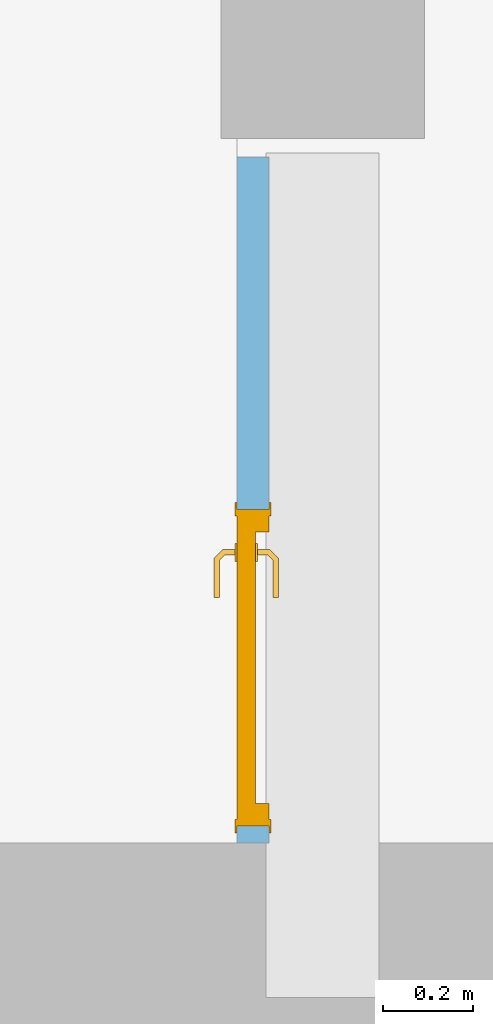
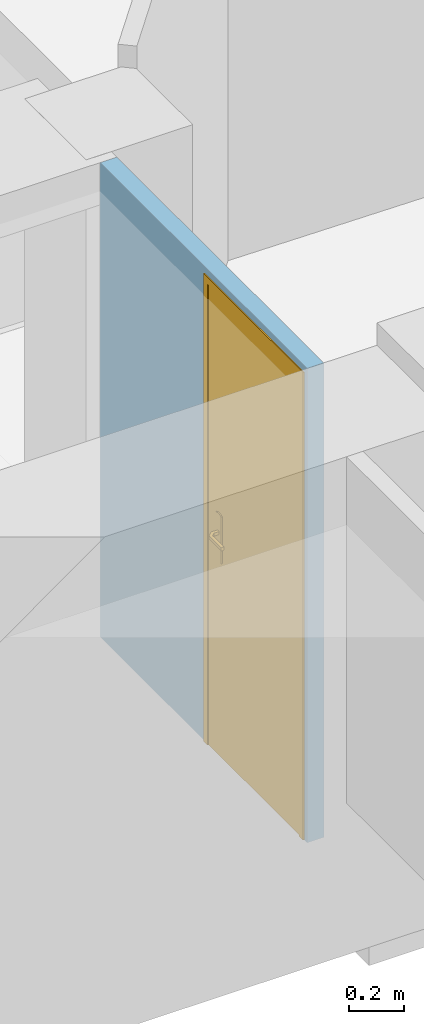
# One storey, part 22 of 32: 1 door, 1 opening, plus 1 element that does not belong to this part.
"""IFC4 building model written with IfcOpenShell, lengths in metres."""

from ifc_helpers import new_model, entity, si_unit, converted_unit, derived_unit, direction, frame, origin, place, context, subcontext, project, spatial, indexed_curve, outline, extrude, polygons, source, transform, mapped, material, material_list, layer, layer_set, constituent, constituent_set, type_object, type_shapes, element, fill, save


model = new_model("IFC4")

# Units and contexts
model_context = context("Model", 3, precision=1e-05, world=origin(), true_north=direction((6.12303176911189e-17, 1.0)))
body_context = subcontext(model_context, "Body", "Model", "MODEL_VIEW")
ifc_project = project(units=[si_unit("LENGTHUNIT", "METRE"), si_unit("AREAUNIT", "SQUARE_METRE"), si_unit("VOLUMEUNIT", "CUBIC_METRE"), converted_unit("PLANEANGLEUNIT", "DEGREE", entity("IfcRatioMeasure", 0.0174532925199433), si_unit("PLANEANGLEUNIT", "RADIAN"), dimensions=[0, 0, 0, 0, 0, 0, 0]), si_unit("MASSUNIT", "GRAM", prefix="KILO"), derived_unit("MASSDENSITYUNIT", [(si_unit("MASSUNIT", "GRAM", prefix="KILO"), 1), (si_unit("LENGTHUNIT", "METRE"), -3)]), derived_unit("MOMENTOFINERTIAUNIT", [(si_unit("LENGTHUNIT", "METRE"), 4)]), si_unit("TIMEUNIT", "SECOND"), si_unit("FREQUENCYUNIT", "HERTZ"), si_unit("THERMODYNAMICTEMPERATUREUNIT", "DEGREE_CELSIUS"), derived_unit("THERMALTRANSMITTANCEUNIT", [(si_unit("MASSUNIT", "GRAM", prefix="KILO"), 1), (si_unit("THERMODYNAMICTEMPERATUREUNIT", "KELVIN"), -1), (si_unit("TIMEUNIT", "SECOND"), -3)]), derived_unit("VOLUMETRICFLOWRATEUNIT", [(si_unit("LENGTHUNIT", "METRE"), 3), (si_unit("TIMEUNIT", "SECOND"), -1)]), si_unit("ELECTRICCURRENTUNIT", "AMPERE"), si_unit("ELECTRICVOLTAGEUNIT", "VOLT"), si_unit("POWERUNIT", "WATT"), si_unit("FORCEUNIT", "NEWTON", prefix="KILO"), si_unit("ILLUMINANCEUNIT", "LUX"), si_unit("LUMINOUSFLUXUNIT", "LUMEN"), si_unit("LUMINOUSINTENSITYUNIT", "CANDELA"), derived_unit("USERDEFINED", [(si_unit("MASSUNIT", "GRAM", prefix="KILO"), -1), (si_unit("LENGTHUNIT", "METRE"), -2), (si_unit("TIMEUNIT", "SECOND"), 3), (si_unit("LUMINOUSFLUXUNIT", "LUMEN"), 1)]), derived_unit("LINEARVELOCITYUNIT", [(si_unit("LENGTHUNIT", "METRE"), 1), (si_unit("TIMEUNIT", "SECOND"), -1)]), si_unit("PRESSUREUNIT", "PASCAL"), derived_unit("USERDEFINED", [(si_unit("LENGTHUNIT", "METRE"), -2), (si_unit("MASSUNIT", "GRAM", prefix="KILO"), 1), (si_unit("TIMEUNIT", "SECOND"), -2)]), derived_unit("LINEARFORCEUNIT", [(si_unit("MASSUNIT", "GRAM", prefix="KILO"), 1), (si_unit("LENGTHUNIT", "METRE"), 1), (si_unit("TIMEUNIT", "SECOND"), -2), (si_unit("LENGTHUNIT", "METRE"), -1)]), derived_unit("PLANARFORCEUNIT", [(si_unit("MASSUNIT", "GRAM", prefix="KILO"), 1), (si_unit("LENGTHUNIT", "METRE"), 1), (si_unit("TIMEUNIT", "SECOND"), -2), (si_unit("LENGTHUNIT", "METRE"), -2)])], contexts=[model_context])

# Site, building, storey
site_placement = place(None, origin())
site = spatial("IfcSite", under=ifc_project, at=site_placement, Name="Default", CompositionType="ELEMENT")
building_placement = place(site_placement, origin())
building = spatial("IfcBuilding", under=site, at=building_placement, Name="HOTEL CONSULAIRE BOULOGNE SUR MER", CompositionType="ELEMENT")
storey_placement = place(building_placement, frame((0.0, 0.0, -2.70343668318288)))
storey = spatial("IfcBuildingStorey", under=building, at=storey_placement, Name="SS1", CompositionType="ELEMENT", Elevation=-2.70343668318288)

# Wall, opening, door
ifc_material_1 = material(Name="Mur par défaut", Category="Divers")
ifc_layer = layer(ifc_material_1, 0.07, Name="Mur par défaut", Category="Divers")
ifc_layer_set = layer_set([ifc_layer], Name="Mur de base:Int. Plâtre 70 mm")
wall_type = type_object("IfcWallType", Name="Mur de base:Int. Plâtre 70 mm", PredefinedType="NOTDEFINED", material=ifc_layer_set)
wall_placement = place(storey_placement, frame((7.01192687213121, -20.0949143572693, 0.313990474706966), z_axis=(0.0, 0.0, 1.0), x_axis=(0.0, -1.0, 0.0)))
wall = element("IfcWall", 1, at=wall_placement, inside=storey, type_object=wall_type, material=ifc_layer_set, Name="Mur de base:Int. Plâtre 70 mm", ObjectType="Mur de base:Int. Plâtre 70 mm", PredefinedType="NOTDEFINED", context=body_context, shape_type="Tessellation", body=[
    polygons([(0.778463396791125, -0.0350000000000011, 0.0), (0.0, -0.0350000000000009, 0.0), (0.0, 0.0349999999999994, 0.0), (0.778463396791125, 0.0349999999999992, 0.0), (1.51546339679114, -0.0350000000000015, 2.11944620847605), (0.0, -0.0350000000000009, 2.11944620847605), (0.778463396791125, -0.0350000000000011, 2.07500952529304), (1.47846339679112, -0.0350000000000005, 2.07500952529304), (1.47846339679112, -0.0350000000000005, 0.0), (1.51546339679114, -0.0350000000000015, 0.0), (0.0, 0.0349999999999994, 2.11944620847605), (1.51546339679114, 0.0349999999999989, 2.11944620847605), (1.51546339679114, 0.0349999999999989, 0.0), (1.47846339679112, 0.0349999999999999, 9.52529303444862e-06), (1.47846339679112, 0.0349999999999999, 2.07500952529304), (0.778463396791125, 0.0349999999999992, 2.07500952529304), (0.0, 0.0349999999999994, 1.9309799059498)], [[[2, 3, 4, 1]], [[15, 8, 7, 16]], [[2, 1, 7, 8, 9, 10, 5, 6]], [[13, 14, 15, 16, 4, 3, 17, 11, 12]], [[6, 5, 12, 11]], [[17, 3, 2, 6, 11]], [[15, 14, 9, 8]], [[10, 13, 12, 5]], [[4, 16, 7, 1]], [[14, 13, 10]], [[10, 9, 14]]], closed=True),
])
opening_placement = place(wall_placement, frame((1.47846339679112, 0.0349999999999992, 9.52529303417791e-06)))
opening = element("IfcOpeningElement", 2, at=opening_placement, cuts=wall, Name="Int. Simple:PP (0.63m x 2.04m):1", ObjectType="Opening", PredefinedType="OPENING", context=body_context, shape_type="SweptSolid", body=[
    extrude(outline(indexed_curve([(0.0, 2.70716782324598e-15), (2.07500000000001, 2.70716782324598e-15), (2.07500000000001, 0.699999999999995), (0.0, 0.699999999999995), (0.0, 2.70716782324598e-15)], self_intersect=False)), frame((0.0, 0.0, 0.0), z_axis=(0.0, -1.0, 0.0), x_axis=(0.0, 0.0, 1.0)), (0.0, 0.0, 1.0), 0.07),
])
ifc_material_2 = material(Name="Finition Peinture - Blanc satiné", Category="Peinture")
ifc_constituent_1 = constituent(ifc_material_2, Name="Finition Peinture - Blanc satiné", Category="Matériaux")
ifc_material_3 = material(Name="Bois - Panneau de porte", Category="Bois")
ifc_constituent_2 = constituent(ifc_material_3, Name="Bois - Panneau de porte", Category="Matériaux")
ifc_material_4 = material(Name="Bois - Cadre de porte", Category="Bois")
ifc_constituent_3 = constituent(ifc_material_4, Name="Bois - Cadre de porte", Category="Matériaux")
ifc_constituent_set = constituent_set(constituents=[ifc_constituent_1, ifc_constituent_2, ifc_constituent_3], Name="MaterialConstituentSet")
ifc_material_list = material_list([ifc_material_3, ifc_material_2, ifc_material_4, ifc_material_4])
door_type = type_object("IfcDoorType", Name="Int. Simple:PP (0.63m x 2.04m)", OperationType="NOTDEFINED", PredefinedType="DOOR", material=ifc_material_list)
shared_shape = source(origin(), body_context, "Body", "Tessellation", [
    polygons([(0.0750000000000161, -0.00500000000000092, 0.870000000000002), (0.0846472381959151, -0.00500000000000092, 0.866003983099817), (0.0950000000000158, -0.00500000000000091, 0.86464101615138), (0.105352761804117, -0.00500000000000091, 0.866003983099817), (0.115000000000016, -0.0050000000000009, 0.870000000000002), (0.115000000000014, -0.0050000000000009, 1.08), (0.105352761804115, -0.00500000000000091, 1.08399601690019), (0.0950000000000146, -0.00500000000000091, 1.08535898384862), (0.0846472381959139, -0.00500000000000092, 1.08399601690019), (0.0750000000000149, -0.00500000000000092, 1.08), (0.0750000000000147, -9.13669140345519e-16, 0.870000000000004), (0.075000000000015, -9.13669140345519e-16, 1.08), (0.084647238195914, -9.09439190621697e-16, 1.08399601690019), (0.0950000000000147, -9.05209240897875e-16, 1.08535898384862), (0.105352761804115, -9.00979291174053e-16, 1.08399601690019), (0.115000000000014, -8.96749341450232e-16, 1.08), (0.115000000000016, -8.96749341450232e-16, 0.870000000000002), (0.105352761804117, -9.00979291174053e-16, 0.866003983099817), (0.0950000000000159, -9.05209240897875e-16, 0.86464101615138), (0.0846472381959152, -9.09439190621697e-16, 0.866003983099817)], [[[4, 5, 6, 7, 8, 9, 10, 1, 2, 3]], [[15, 16, 17, 18, 19, 20, 11, 12, 13, 14]], [[11, 20, 2, 1]], [[2, 20, 19, 3]], [[19, 18, 4, 3]], [[18, 17, 5, 4]], [[6, 5, 17, 16]], [[16, 15, 7, 6]], [[7, 15, 14, 8]], [[14, 13, 9, 8]], [[13, 12, 10, 9]], [[1, 10, 12, 11]]], closed=True),
    polygons([(0.115000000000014, 0.0399999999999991, 1.08), (0.105352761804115, 0.0399999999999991, 1.08399601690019), (0.0950000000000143, 0.0399999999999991, 1.08535898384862), (0.0846472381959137, 0.0399999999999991, 1.08399601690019), (0.0750000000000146, 0.0399999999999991, 1.08), (0.0750000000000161, 0.0399999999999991, 0.870000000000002), (0.0846472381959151, 0.0399999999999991, 0.866003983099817), (0.0950000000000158, 0.0399999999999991, 0.86464101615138), (0.105352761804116, 0.0399999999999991, 0.866003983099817), (0.115000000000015, 0.0399999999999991, 0.870000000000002), (0.115000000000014, 0.0449999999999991, 1.08), (0.115000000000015, 0.0449999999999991, 0.870000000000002), (0.105352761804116, 0.0449999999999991, 0.866003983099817), (0.0950000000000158, 0.0449999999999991, 0.86464101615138), (0.0846472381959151, 0.0449999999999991, 0.866003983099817), (0.0750000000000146, 0.0449999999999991, 0.870000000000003), (0.0750000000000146, 0.0449999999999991, 1.08), (0.0846472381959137, 0.0449999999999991, 1.08399601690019), (0.0950000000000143, 0.0449999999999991, 1.08535898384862), (0.105352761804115, 0.0449999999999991, 1.08399601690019)], [[[9, 10, 1, 2, 3, 4, 5, 6, 7, 8]], [[20, 11, 12, 13, 14, 15, 16, 17, 18, 19]], [[11, 20, 2, 1]], [[2, 20, 19, 3]], [[19, 18, 4, 3]], [[18, 17, 5, 4]], [[6, 5, 17, 16]], [[16, 15, 7, 6]], [[7, 15, 14, 8]], [[14, 13, 9, 8]], [[13, 12, 10, 9]], [[1, 10, 12, 11]]], closed=True),
    polygons([(0.0889999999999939, -0.00500000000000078, 1.007), (0.0929747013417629, -0.00500000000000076, 1.00778044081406), (0.0970252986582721, -0.00500000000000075, 1.00778044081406), (0.101000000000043, -0.00500000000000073, 1.00699999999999), (0.101000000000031, -0.00500000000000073, 0.993000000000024), (0.097025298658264, -0.00500000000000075, 0.992219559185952), (0.0929747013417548, -0.00500000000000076, 0.99221955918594), (0.088999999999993, -0.00500000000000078, 0.992999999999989), (0.0889999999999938, -0.0326509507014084, 1.007), (0.0929747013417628, -0.0310045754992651, 1.00778044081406), (0.097025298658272, -0.0293267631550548, 1.00778044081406), (0.101000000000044, -0.0276803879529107, 1.007), (0.101000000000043, -0.0276803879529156, 0.993000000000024), (0.097025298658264, -0.029326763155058, 0.992219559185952), (0.0929747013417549, -0.0310045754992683, 0.99221955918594), (0.0889999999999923, -0.0326509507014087, 0.992999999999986), (0.107377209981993, -0.0510281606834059, 1.007), (0.109023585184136, -0.047053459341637, 1.00778044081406), (0.110701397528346, -0.0430028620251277, 1.00778044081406), (0.112347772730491, -0.0390281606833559, 1.007), (0.112347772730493, -0.0390281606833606, 0.993000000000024), (0.110701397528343, -0.0430028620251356, 0.992219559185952), (0.109023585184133, -0.0470534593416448, 0.99221955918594), (0.107377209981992, -0.0510281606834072, 0.992999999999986), (0.195018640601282, -0.0510281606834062, 1.00699999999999), (0.195018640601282, -0.0510281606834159, 0.992999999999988), (0.195018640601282, -0.0470534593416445, 0.99221955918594), (0.195018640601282, -0.0430028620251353, 0.992219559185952), (0.195018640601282, -0.0390281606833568, 0.993000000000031), (0.195018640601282, -0.0390281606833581, 1.007), (0.195018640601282, -0.0430028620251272, 1.00778044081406), (0.195018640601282, -0.0470534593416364, 1.00778044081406), (0.147307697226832, -0.0510281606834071, 1.007), (0.152860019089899, -0.0450281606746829, 1.0078786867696), (0.153683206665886, -0.0390281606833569, 1.007), (0.147307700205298, -0.051028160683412, 0.992999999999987), (0.152860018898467, -0.0450281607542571, 0.992121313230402), (0.153683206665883, -0.0390281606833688, 0.993000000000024)], [[[2, 3, 4, 5, 6, 7, 8, 1]], [[21, 20, 35, 30, 29, 38]], [[9, 10, 2, 1]], [[10, 18, 19, 11, 3, 2]], [[11, 12, 4, 3]], [[5, 4, 12, 13]], [[26, 27, 28, 29, 30, 31, 32, 25]], [[13, 14, 6, 5]], [[14, 22, 23, 15, 7, 6]], [[15, 16, 8, 7]], [[1, 8, 16, 9]], [[17, 18, 10, 9]], [[19, 20, 12, 11]], [[13, 12, 20, 21]], [[21, 22, 14, 13]], [[23, 24, 16, 15]], [[9, 16, 24, 17]], [[33, 32, 34]], [[25, 32, 33]], [[18, 17, 33]], [[34, 35, 19]], [[20, 19, 35]], [[35, 31, 30]], [[32, 31, 34]], [[31, 35, 34]], [[18, 33, 34]], [[18, 34, 19]], [[38, 28, 37]], [[36, 37, 27]], [[21, 38, 22]], [[38, 29, 28]], [[26, 36, 27]], [[24, 23, 36]], [[36, 23, 37]], [[23, 22, 37]], [[22, 38, 37]], [[27, 37, 28]], [[17, 24, 36, 26, 25, 33]]], closed=True),
    polygons([(0.101000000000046, 0.0449999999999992, 0.993000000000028), (0.101000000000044, 0.0449999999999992, 1.007), (0.0970252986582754, 0.0449999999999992, 1.00778044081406), (0.0929747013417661, 0.0449999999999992, 1.00778044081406), (0.0889999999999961, 0.0449999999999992, 1.007), (0.0889999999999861, 0.0449999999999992, 0.992999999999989), (0.0929747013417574, 0.0449999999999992, 0.99221955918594), (0.0970252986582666, 0.0449999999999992, 0.992219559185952), (0.101000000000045, 0.0674852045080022, 0.993000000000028), (0.101000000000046, 0.0674852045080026, 1.007), (0.0970252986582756, 0.0691315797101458, 1.00778044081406), (0.0929747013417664, 0.0708093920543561, 1.00778044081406), (0.0889999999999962, 0.0724557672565, 1.007), (0.0889999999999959, 0.0724557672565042, 0.992999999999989), (0.0929747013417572, 0.0708093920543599, 0.99221955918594), (0.0970252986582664, 0.0691315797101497, 0.992219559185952), (0.112485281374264, 0.0789704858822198, 0.993000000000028), (0.112485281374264, 0.0789704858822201, 1.007), (0.11083890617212, 0.0829451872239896, 1.00778044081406), (0.10916109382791, 0.0869957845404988, 1.00778044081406), (0.107514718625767, 0.0909704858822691, 1.007), (0.107514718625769, 0.0909704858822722, 0.992999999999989), (0.109161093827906, 0.086995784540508, 0.99221955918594), (0.110838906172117, 0.0829451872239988, 0.992219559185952), (0.19504578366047, 0.0789704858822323, 0.993000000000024), (0.19504578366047, 0.082945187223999, 0.992219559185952), (0.19504578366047, 0.0869957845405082, 0.99221955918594), (0.19504578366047, 0.0909704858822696, 0.992999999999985), (0.19504578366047, 0.0909704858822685, 1.007), (0.19504578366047, 0.0869957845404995, 1.00778044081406), (0.19504578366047, 0.0829451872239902, 1.00778044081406), (0.19504578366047, 0.07897048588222, 1.007), (0.147445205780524, 0.0909704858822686, 1.007), (0.15294234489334, 0.0849704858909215, 1.0078786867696), (0.153765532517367, 0.0789704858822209, 1.007), (0.147445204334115, 0.0909704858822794, 0.992999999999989), (0.152942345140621, 0.0849704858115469, 0.992121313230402), (0.153765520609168, 0.0789704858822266, 0.993000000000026)], [[[4, 5, 6, 7, 8, 1, 2, 3]], [[18, 17, 38, 25, 32, 35]], [[2, 1, 9, 10]], [[25, 26, 27, 28, 29, 30, 31, 32]], [[10, 11, 3, 2]], [[11, 19, 20, 12, 4, 3]], [[12, 13, 5, 4]], [[6, 5, 13, 14]], [[14, 15, 7, 6]], [[15, 23, 24, 16, 8, 7]], [[16, 9, 1, 8]], [[10, 9, 17, 18]], [[18, 19, 11, 10]], [[20, 21, 13, 12]], [[14, 13, 21, 22]], [[22, 23, 15, 14]], [[24, 17, 9, 16]], [[35, 31, 34]], [[33, 34, 30]], [[18, 35, 19]], [[35, 32, 31]], [[29, 33, 30]], [[21, 20, 33]], [[33, 20, 34]], [[20, 19, 34]], [[19, 35, 34]], [[30, 34, 31]], [[21, 33, 29, 28, 36, 22]], [[36, 27, 37]], [[28, 27, 36]], [[23, 22, 36]], [[37, 38, 24]], [[17, 24, 38]], [[38, 26, 25]], [[27, 26, 37]], [[26, 38, 37]], [[23, 36, 37]], [[23, 37, 24]]], closed=True),
    polygons([(0.0350000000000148, 0.0400000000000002, 2.04), (0.665000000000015, 0.0400000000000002, 2.04), (0.665000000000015, 0.0400000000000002, 0.0), (0.0350000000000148, 0.0400000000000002, 0.0), (0.0350000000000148, 1.86117787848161e-16, 2.04), (0.0350000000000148, 1.86117787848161e-16, 0.0), (0.665000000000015, 1.86117787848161e-16, 0.0), (0.665000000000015, 1.86117787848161e-16, 2.04)], [[[4, 1, 2, 3]], [[7, 8, 5, 6]], [[2, 1, 5, 8]], [[3, 2, 8, 7]], [[4, 3, 7, 6]], [[1, 4, 6, 5]]], closed=True),
    polygons([(-1.57015733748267e-14, 4.22994972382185e-18, 0.0), (-1.57015733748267e-14, 0.0699999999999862, 0.0), (0.0500000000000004, 0.0699999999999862, 0.0), (0.0500000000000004, 0.04, 0.0), (0.0349999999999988, 0.04, 0.0), (0.0349999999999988, 4.22994972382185e-18, 0.0), (-1.54985357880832e-14, 4.22994972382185e-18, 2.07500000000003), (-1.54985357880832e-14, 0.0699999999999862, 2.07500000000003), (0.700000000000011, 0.0699999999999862, 2.07500000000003), (0.700000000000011, 0.0699999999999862, 3.49936692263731e-24), (0.649999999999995, 0.0699999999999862, -5.39486022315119e-24), (0.649999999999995, 0.0699999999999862, 2.02500000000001), (0.0500000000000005, 0.0699999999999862, 2.02500000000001), (0.0500000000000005, 0.04, 2.02500000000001), (0.649999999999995, 0.04, 2.02500000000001), (0.649999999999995, 0.04, -3.88458692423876e-24), (0.664999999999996, 0.04, 1.46419080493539e-24), (0.664999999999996, 0.04, 2.04000000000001), (0.0349999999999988, 0.04, 2.04000000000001), (0.0349999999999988, 4.22994972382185e-18, 2.04000000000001), (0.664999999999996, 4.22994972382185e-18, 2.04000000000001), (0.664999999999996, 4.22994972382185e-18, 0.0), (0.700000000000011, 4.22994972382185e-18, -4.03399441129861e-24), (0.700000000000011, 4.22994972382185e-18, 2.07500000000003)], [[[5, 6, 1, 2, 3, 4]], [[16, 11, 10, 23, 22, 17]], [[14, 13, 12, 15]], [[20, 19, 18, 21]], [[2, 1, 7, 8]], [[15, 12, 11, 16]], [[21, 18, 17, 22]], [[3, 2, 8, 9, 10, 11, 12, 13]], [[4, 3, 13, 14]], [[6, 5, 19, 20]], [[9, 24, 23, 10]], [[16, 17, 18, 19, 5, 4, 14, 15]], [[22, 23, 24, 7, 1, 6, 20, 21]], [[8, 7, 24, 9]]], closed=True),
    polygons([(0.0149999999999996, 0.0699999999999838, 0.0), (-0.0150000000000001, 0.0699999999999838, 0.0), (-0.0150000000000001, 0.0749999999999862, 0.0), (0.0149999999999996, 0.0749999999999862, 0.0), (0.0149999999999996, 0.0699999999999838, 2.06000000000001), (0.684999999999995, 0.0699999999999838, 2.06000000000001), (0.684999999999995, 0.0699999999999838, -2.74154910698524e-24), (0.714999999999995, 0.0699999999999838, -1.84075420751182e-24), (0.714999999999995, 0.0699999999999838, 2.09000000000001), (-0.0150000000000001, 0.0699999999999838, 2.09000000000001), (-0.0150000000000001, 0.0749999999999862, 2.09000000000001), (0.714999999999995, 0.0749999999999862, 2.09000000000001), (0.714999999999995, 0.0749999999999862, 0.0), (0.684999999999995, 0.0749999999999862, -4.03399441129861e-24), (0.684999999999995, 0.0749999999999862, 2.06000000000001), (0.0149999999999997, 0.0749999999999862, 2.06000000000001)], [[[2, 3, 4, 1]], [[14, 13, 8, 7]], [[5, 16, 15, 6]], [[7, 8, 9, 10, 2, 1, 5, 6]], [[3, 2, 10, 11]], [[6, 15, 14, 7]], [[4, 3, 11, 12, 13, 14, 15, 16]], [[1, 4, 16, 5]], [[12, 9, 8, 13]], [[11, 10, 9, 12]]], closed=True),
    polygons([(0.0149999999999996, -0.00499999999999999, 0.0), (-0.0150000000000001, -0.00499999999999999, 0.0), (-0.0150000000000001, -8.2484019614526e-16, 0.0), (0.0149999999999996, -8.2484019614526e-16, 0.0), (0.684999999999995, -0.00499999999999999, -5.41433564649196e-16), (0.684999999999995, -8.2484019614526e-16, -5.41433564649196e-16), (0.714999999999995, -8.2484019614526e-16, -5.41433564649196e-16), (0.714999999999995, -0.00499999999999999, -5.41433564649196e-16), (0.0149999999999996, -0.00499999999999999, 2.06000000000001), (0.684999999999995, -0.00499999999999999, 2.06000000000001), (0.714999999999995, -0.00499999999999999, 2.09000000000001), (-0.0150000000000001, -0.00499999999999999, 2.09000000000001), (-0.0150000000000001, -8.2484019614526e-16, 2.09000000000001), (0.714999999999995, -8.2484019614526e-16, 2.09000000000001), (0.684999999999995, -8.2484019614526e-16, 2.06000000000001), (0.0149999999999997, -8.2484019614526e-16, 2.06000000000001)], [[[2, 3, 4, 1]], [[6, 7, 8, 5]], [[9, 16, 15, 10]], [[5, 8, 11, 12, 2, 1, 9, 10]], [[3, 2, 12, 13]], [[10, 15, 6, 5]], [[4, 3, 13, 14, 7, 6, 15, 16]], [[1, 4, 16, 9]], [[14, 11, 8, 7]], [[13, 12, 11, 14]]], closed=True),
])
type_shapes(door_type, [shared_shape])
door_placement = place(opening_placement, frame((-0.699999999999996, -0.0700000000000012, 0.0)))
door = element("IfcDoor", 3, at=door_placement, inside=storey, type_object=door_type, material=ifc_constituent_set, Name="Int. Simple:PP (0.63m x 2.04m)", ObjectType="Int. Simple:PP (0.63m x 2.04m)", OperationType="NOTDEFINED", OverallHeight=2.07500000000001, OverallWidth=0.699999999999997, PredefinedType="DOOR", context=body_context, shape_type="MappedRepresentation", body=[
    mapped(shared_shape, transform((0.0, 0.0, 0.0), scale=1.0)),
])
fill(opening, door)

save(model, "model.ifc")
